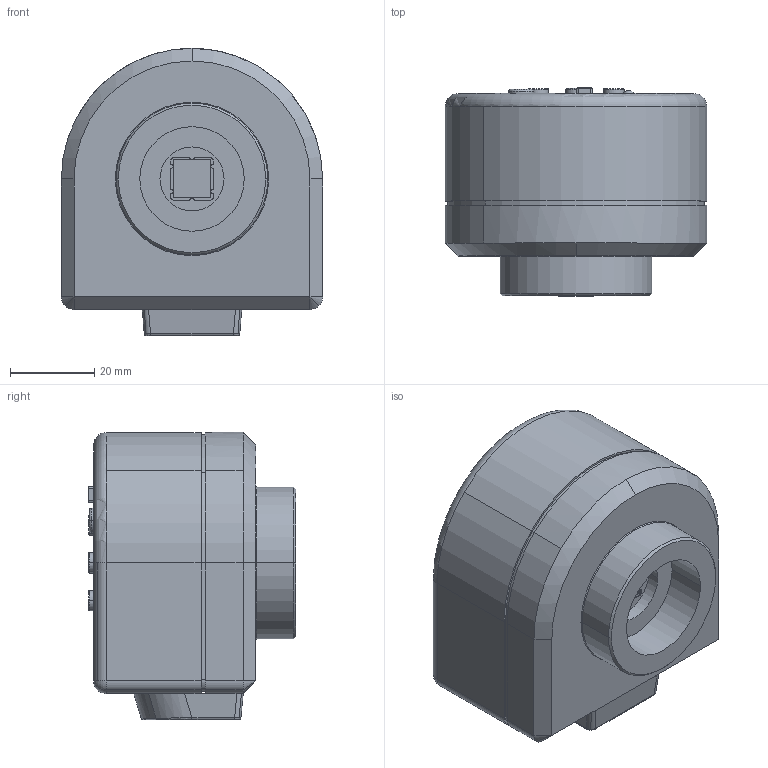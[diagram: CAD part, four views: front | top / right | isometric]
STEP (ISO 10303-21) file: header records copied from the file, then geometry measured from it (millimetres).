
FILE_DESCRIPTION(('STEP AP214'),'1');
FILE_NAME('XM200HD.stp','2022-09-28T02:05:41',(' '),(' '),'Spatial InterOp 3D',' ',' ');
FILE_SCHEMA(('AUTOMOTIVE_DESIGN { 1 0 10303 214 1 1 1 1 }'));
Length unit declared in the file: metre
Products named in the file (2): XM200HD; Component1
Assembly tree (1 placements, depth 2):
  XM200HD
    Component1
Bounding box: 62 x 49.3 x 68.2 mm (x, y, z)
Volume: 137141.1 mm3; surface area: 20507 mm2
Topology: 1 solids, 3 shells, 497 faces, 1302 edges, 836 vertices
Faces by surface type: cylinder 254, plane 194, torus 27, cone 12, sphere 6, bspline 4
Entity records: 16098 total; most frequent: CARTESIAN_POINT 3351, DIRECTION 2850, ORIENTED_EDGE 2584, EDGE_CURVE 1292, AXIS2_PLACEMENT_3D 1091, VERTEX_POINT 836, LINE 668, VECTOR 668
